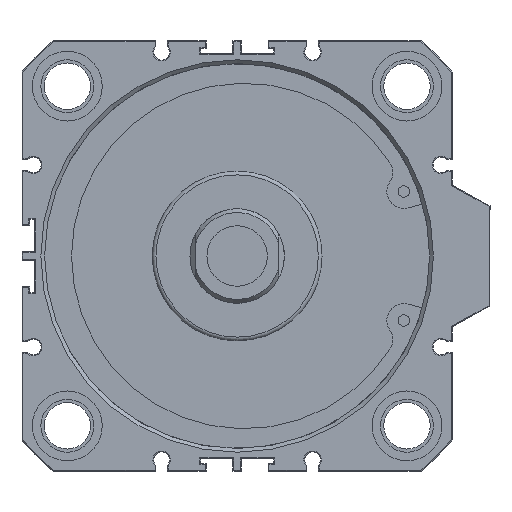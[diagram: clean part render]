
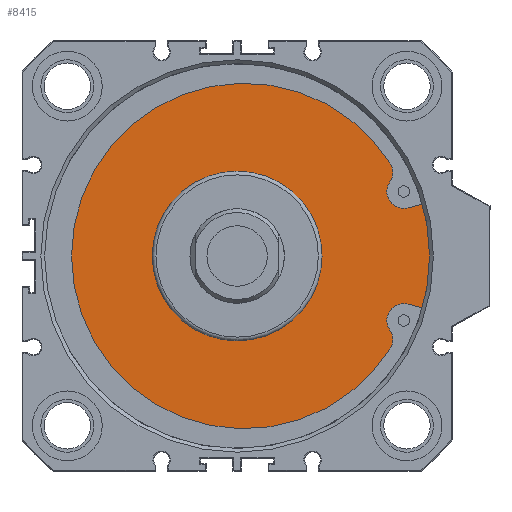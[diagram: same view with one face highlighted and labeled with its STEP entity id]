
A CAD part, front view. The second image highlights one B-rep face of the part: STEP entity #8415.
In plain terms, the highlighted planar face has unit normal (0, -1, 0).
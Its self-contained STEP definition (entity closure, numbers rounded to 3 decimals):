
#124=LINE('',#11229,#712);
#125=LINE('',#11242,#713);
#712=VECTOR('',#9467,1000.);
#713=VECTOR('',#9478,1000.);
#1425=ORIENTED_EDGE('',*,*,#3008,.T.);
#1426=ORIENTED_EDGE('',*,*,#3009,.T.);
#1427=ORIENTED_EDGE('',*,*,#3010,.T.);
#1428=ORIENTED_EDGE('',*,*,#3011,.T.);
#1429=ORIENTED_EDGE('',*,*,#3012,.T.);
#1430=ORIENTED_EDGE('',*,*,#3013,.T.);
#1431=ORIENTED_EDGE('',*,*,#3014,.T.);
#1432=ORIENTED_EDGE('',*,*,#3015,.F.);
#1433=ORIENTED_EDGE('',*,*,#3005,.F.);
#3005=EDGE_CURVE('',#3802,#3802,#4277,.T.);
#3008=EDGE_CURVE('',#3805,#3806,#124,.T.);
#3009=EDGE_CURVE('',#3806,#3807,#4280,.T.);
#3010=EDGE_CURVE('',#3807,#3808,#4281,.T.);
#3011=EDGE_CURVE('',#3808,#3809,#4282,.T.);
#3012=EDGE_CURVE('',#3809,#3810,#4283,.T.);
#3013=EDGE_CURVE('',#3810,#3811,#4284,.T.);
#3014=EDGE_CURVE('',#3811,#3812,#125,.T.);
#3015=EDGE_CURVE('',#3805,#3812,#4285,.T.);
#3802=VERTEX_POINT('',#11221);
#3805=VERTEX_POINT('',#11230);
#3806=VERTEX_POINT('',#11231);
#3807=VERTEX_POINT('',#11233);
#3808=VERTEX_POINT('',#11235);
#3809=VERTEX_POINT('',#11237);
#3810=VERTEX_POINT('',#11239);
#3811=VERTEX_POINT('',#11241);
#3812=VERTEX_POINT('',#11243);
#4277=CIRCLE('',#8827,22.5);
#4280=CIRCLE('',#8833,4.5);
#4281=CIRCLE('',#8834,4.5);
#4282=CIRCLE('',#8835,45.77);
#4283=CIRCLE('',#8836,4.5);
#4284=CIRCLE('',#8837,4.5);
#4285=CIRCLE('',#8838,53.);
#4476=EDGE_LOOP('',(#1425,#1426,#1427,#1428,#1429,#1430,#1431,#1432));
#4477=EDGE_LOOP('',(#1433));
#4946=FACE_BOUND('',#4476,.T.);
#4947=FACE_BOUND('',#4477,.T.);
#5402=PLANE('',#8832);
#8415=ADVANCED_FACE('',(#4946,#4947),#5402,.T.);
#8827=AXIS2_PLACEMENT_3D('',#11220,#9455,#9456);
#8832=AXIS2_PLACEMENT_3D('',#11228,#9465,#9466);
#8833=AXIS2_PLACEMENT_3D('',#11232,#9468,#9469);
#8834=AXIS2_PLACEMENT_3D('',#11234,#9470,#9471);
#8835=AXIS2_PLACEMENT_3D('',#11236,#9472,#9473);
#8836=AXIS2_PLACEMENT_3D('',#11238,#9474,#9475);
#8837=AXIS2_PLACEMENT_3D('',#11240,#9476,#9477);
#8838=AXIS2_PLACEMENT_3D('',#11244,#9479,#9480);
#9455=DIRECTION('',(0.,-1.,0.));
#9456=DIRECTION('',(1.,0.,0.));
#9465=DIRECTION('',(0.,-1.,0.));
#9466=DIRECTION('',(1.,0.,0.));
#9467=DIRECTION('',(-0.966,0.,-0.259));
#9468=DIRECTION('',(0.,1.,0.));
#9469=DIRECTION('',(1.,0.,0.));
#9470=DIRECTION('',(0.,-1.,0.));
#9471=DIRECTION('',(-1.,0.,0.));
#9472=DIRECTION('',(0.,-1.,0.));
#9473=DIRECTION('',(1.,0.,0.));
#9474=DIRECTION('',(0.,-1.,0.));
#9475=DIRECTION('',(-1.,0.,0.));
#9476=DIRECTION('',(0.,1.,0.));
#9477=DIRECTION('',(1.,0.,0.));
#9478=DIRECTION('',(0.966,0.,-0.259));
#9479=DIRECTION('',(0.,1.,0.));
#9480=DIRECTION('',(-1.,0.,0.));
#11220=CARTESIAN_POINT('',(0.,8.,0.));
#11221=CARTESIAN_POINT('',(22.5,8.,0.));
#11228=CARTESIAN_POINT('',(0.,8.,-53.));
#11229=CARTESIAN_POINT('',(51.039,8.,14.283));
#11230=CARTESIAN_POINT('',(51.039,8.,14.283));
#11231=CARTESIAN_POINT('',(45.35,8.,12.758));
#11232=CARTESIAN_POINT('',(44.185,8.,17.105));
#11233=CARTESIAN_POINT('',(40.45,8.,19.615));
#11234=CARTESIAN_POINT('',(36.73,8.,22.147));
#11235=CARTESIAN_POINT('',(40.642,8.,24.372));
#11236=CARTESIAN_POINT('',(1.9,8.,0.));
#11237=CARTESIAN_POINT('',(40.642,8.,-24.372));
#11238=CARTESIAN_POINT('',(36.73,8.,-22.147));
#11239=CARTESIAN_POINT('',(40.45,8.,-19.615));
#11240=CARTESIAN_POINT('',(44.185,8.,-17.105));
#11241=CARTESIAN_POINT('',(45.35,8.,-12.758));
#11242=CARTESIAN_POINT('',(45.35,8.,-12.758));
#11243=CARTESIAN_POINT('',(51.039,8.,-14.283));
#11244=CARTESIAN_POINT('',(0.,8.,0.));
